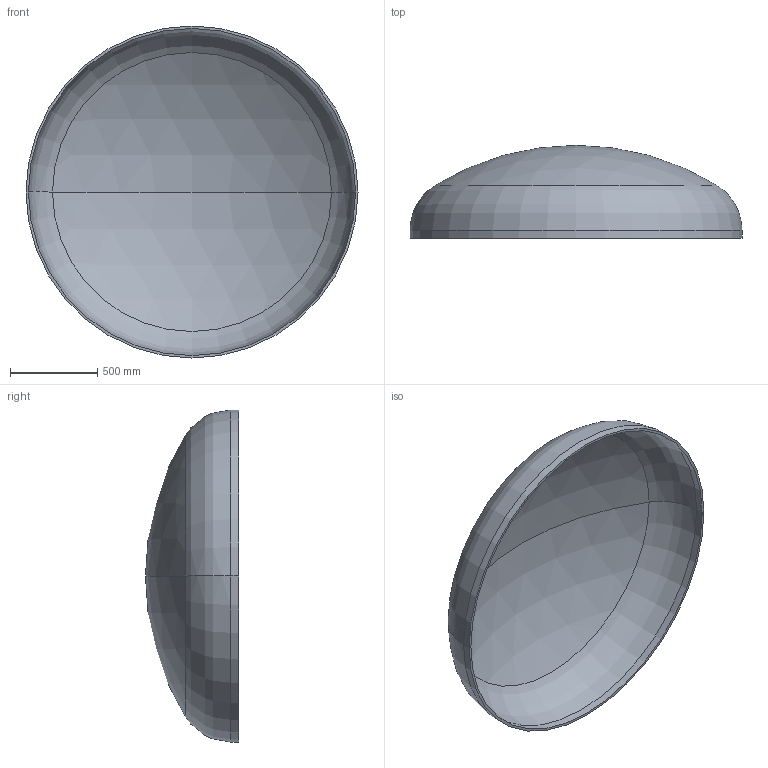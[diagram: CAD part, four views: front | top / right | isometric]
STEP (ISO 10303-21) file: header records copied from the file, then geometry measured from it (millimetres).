
FILE_DESCRIPTION (( 'STEP AP203' ), '1' );
FILE_NAME ('DIN 28013 Korbbogenform_-_Boden DIN 28013 - 1900 x 45 - I - s=14.step', '2016-07-01T12:55:56', ( '' ), ( '' ), 'SwSTEP 2.0', 'SolidWorks 2013', '' );
FILE_SCHEMA (( 'CONFIG_CONTROL_DESIGN' ));
Length unit declared in the file: millimetre
Products named in the file (1): DIN 28013 Korbbogenform_-_Boden DIN 28013 - 1900 x 45 - I - s=14
Bounding box: 1900 x 532.3 x 1900 mm (x, y, z)
Volume: 58081417.7 mm3; surface area: 8380703.3 mm2
Topology: 1 solids, 1 shells, 13 faces, 24 edges, 14 vertices
Faces by surface type: torus 4, cylinder 4, sphere 4, plane 1
Entity records: 407 total; most frequent: DIRECTION 72, CARTESIAN_POINT 52, ORIENTED_EDGE 48, AXIS2_PLACEMENT_3D 34, EDGE_CURVE 24, CIRCLE 20, EDGE_LOOP 14, VERTEX_POINT 14
